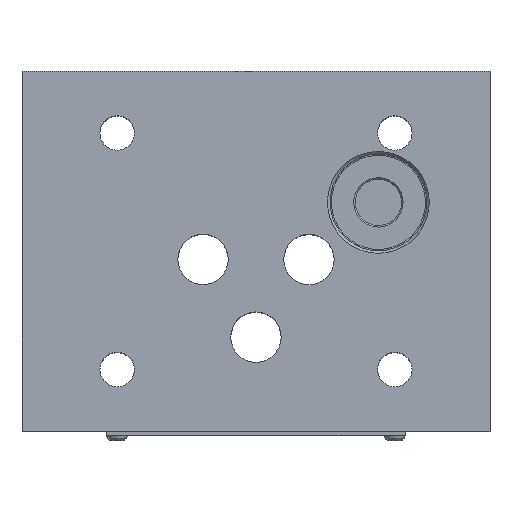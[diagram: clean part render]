
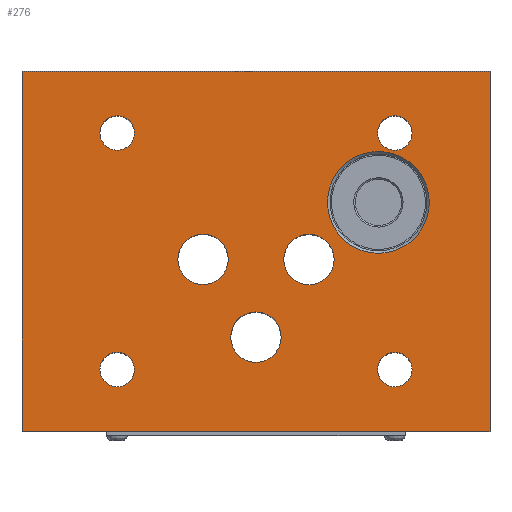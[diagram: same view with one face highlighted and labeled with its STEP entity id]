
A CAD part, top view. The second image highlights one B-rep face of the part: STEP entity #276.
In plain terms, the highlighted planar face has unit normal (0, 0, 1).
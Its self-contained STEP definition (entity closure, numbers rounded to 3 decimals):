
#174=PLANE('',#988);
#203=LINE('',#1365,#239);
#204=LINE('',#1368,#240);
#205=LINE('',#1370,#241);
#206=LINE('',#1372,#242);
#239=VECTOR('',#1109,1.);
#240=VECTOR('',#1110,1.);
#241=VECTOR('',#1111,1.);
#242=VECTOR('',#1112,1.);
#276=ADVANCED_FACE('',(#362,#363,#364,#365,#366,#367,#368,#369,#370),#174,
 .T.);
#362=FACE_BOUND('',#471,.T.);
#363=FACE_BOUND('',#472,.T.);
#364=FACE_BOUND('',#473,.T.);
#365=FACE_BOUND('',#474,.T.);
#366=FACE_BOUND('',#475,.T.);
#367=FACE_BOUND('',#476,.T.);
#368=FACE_BOUND('',#477,.T.);
#369=FACE_BOUND('',#478,.T.);
#370=FACE_BOUND('',#479,.T.);
#471=EDGE_LOOP('',(#587));
#472=EDGE_LOOP('',(#588));
#473=EDGE_LOOP('',(#589));
#474=EDGE_LOOP('',(#590));
#475=EDGE_LOOP('',(#591));
#476=EDGE_LOOP('',(#592));
#477=EDGE_LOOP('',(#593));
#478=EDGE_LOOP('',(#594,#595,#596,#597));
#479=EDGE_LOOP('',(#598));
#587=ORIENTED_EDGE('',*,*,#842,.T.);
#588=ORIENTED_EDGE('',*,*,#843,.F.);
#589=ORIENTED_EDGE('',*,*,#844,.F.);
#590=ORIENTED_EDGE('',*,*,#845,.F.);
#591=ORIENTED_EDGE('',*,*,#846,.F.);
#592=ORIENTED_EDGE('',*,*,#847,.F.);
#593=ORIENTED_EDGE('',*,*,#848,.F.);
#594=ORIENTED_EDGE('',*,*,#849,.F.);
#595=ORIENTED_EDGE('',*,*,#850,.F.);
#596=ORIENTED_EDGE('',*,*,#851,.F.);
#597=ORIENTED_EDGE('',*,*,#852,.F.);
#598=ORIENTED_EDGE('',*,*,#853,.T.);
#759=VERTEX_POINT('',#1352);
#760=VERTEX_POINT('',#1354);
#761=VERTEX_POINT('',#1356);
#762=VERTEX_POINT('',#1358);
#763=VERTEX_POINT('',#1360);
#764=VERTEX_POINT('',#1362);
#765=VERTEX_POINT('',#1364);
#766=VERTEX_POINT('',#1366);
#767=VERTEX_POINT('',#1367);
#768=VERTEX_POINT('',#1369);
#769=VERTEX_POINT('',#1371);
#770=VERTEX_POINT('',#1374);
#842=EDGE_CURVE('',#759,#759,#928,.T.);
#843=EDGE_CURVE('',#760,#760,#929,.T.);
#844=EDGE_CURVE('',#761,#761,#930,.T.);
#845=EDGE_CURVE('',#762,#762,#931,.T.);
#846=EDGE_CURVE('',#763,#763,#932,.T.);
#847=EDGE_CURVE('',#764,#764,#933,.T.);
#848=EDGE_CURVE('',#765,#765,#934,.T.);
#849=EDGE_CURVE('',#766,#767,#203,.T.);
#850=EDGE_CURVE('',#768,#766,#204,.T.);
#851=EDGE_CURVE('',#769,#768,#205,.T.);
#852=EDGE_CURVE('',#767,#769,#206,.T.);
#853=EDGE_CURVE('',#770,#770,#935,.T.);
#928=CIRCLE('',#980,9.9);
#929=CIRCLE('',#981,3.35);
#930=CIRCLE('',#982,3.35);
#931=CIRCLE('',#983,4.9);
#932=CIRCLE('',#984,4.9);
#933=CIRCLE('',#985,3.35);
#934=CIRCLE('',#986,3.35);
#935=CIRCLE('',#987,4.9);
#980=AXIS2_PLACEMENT_3D('',#1351,#1095,#1096);
#981=AXIS2_PLACEMENT_3D('',#1353,#1097,#1098);
#982=AXIS2_PLACEMENT_3D('',#1355,#1099,#1100);
#983=AXIS2_PLACEMENT_3D('',#1357,#1101,#1102);
#984=AXIS2_PLACEMENT_3D('',#1359,#1103,#1104);
#985=AXIS2_PLACEMENT_3D('',#1361,#1105,#1106);
#986=AXIS2_PLACEMENT_3D('',#1363,#1107,#1108);
#987=AXIS2_PLACEMENT_3D('',#1373,#1113,#1114);
#988=AXIS2_PLACEMENT_3D('',#1375,#1115,#1116);
#1095=DIRECTION('',(0.,0.,-1.));
#1096=DIRECTION('',(1.,0.,0.));
#1097=DIRECTION('',(0.,0.,1.));
#1098=DIRECTION('',(1.,0.,0.));
#1099=DIRECTION('',(0.,0.,1.));
#1100=DIRECTION('',(1.,0.,0.));
#1101=DIRECTION('',(0.,0.,1.));
#1102=DIRECTION('',(1.,0.,0.));
#1103=DIRECTION('',(0.,0.,1.));
#1104=DIRECTION('',(1.,0.,0.));
#1105=DIRECTION('',(0.,0.,1.));
#1106=DIRECTION('',(1.,0.,0.));
#1107=DIRECTION('',(0.,0.,1.));
#1108=DIRECTION('',(1.,0.,0.));
#1109=DIRECTION('',(-1.,0.,0.));
#1110=DIRECTION('',(0.,-1.,0.));
#1111=DIRECTION('',(1.,0.,0.));
#1112=DIRECTION('',(0.,1.,0.));
#1113=DIRECTION('',(0.,0.,-1.));
#1114=DIRECTION('',(1.,0.,0.));
#1115=DIRECTION('',(0.,0.,1.));
#1116=DIRECTION('',(-1.,0.,0.));
#1351=CARTESIAN_POINT('',(99.885,161.827,50.));
#1352=CARTESIAN_POINT('',(109.785,161.827,50.));
#1353=CARTESIAN_POINT('',(49.085,129.327,50.));
#1354=CARTESIAN_POINT('',(52.435,129.327,50.));
#1355=CARTESIAN_POINT('',(49.085,175.327,50.));
#1356=CARTESIAN_POINT('',(52.435,175.327,50.));
#1357=CARTESIAN_POINT('',(65.785,150.757,50.));
#1358=CARTESIAN_POINT('',(70.685,150.757,50.));
#1359=CARTESIAN_POINT('',(76.081,135.627,50.));
#1360=CARTESIAN_POINT('',(80.981,135.627,50.));
#1361=CARTESIAN_POINT('',(103.085,129.327,50.));
#1362=CARTESIAN_POINT('',(106.435,129.327,50.));
#1363=CARTESIAN_POINT('',(103.085,175.327,50.));
#1364=CARTESIAN_POINT('',(106.435,175.327,50.));
#1365=CARTESIAN_POINT('',(121.585,117.327,50.));
#1366=CARTESIAN_POINT('',(121.585,117.327,50.));
#1367=CARTESIAN_POINT('',(30.585,117.327,50.));
#1368=CARTESIAN_POINT('',(121.585,187.327,50.));
#1369=CARTESIAN_POINT('',(121.585,187.327,50.));
#1370=CARTESIAN_POINT('',(30.585,187.327,50.));
#1371=CARTESIAN_POINT('',(30.585,187.327,50.));
#1372=CARTESIAN_POINT('',(30.585,117.327,50.));
#1373=CARTESIAN_POINT('',(86.385,150.727,50.));
#1374=CARTESIAN_POINT('',(91.285,150.727,50.));
#1375=CARTESIAN_POINT('',(103.085,175.327,50.));
